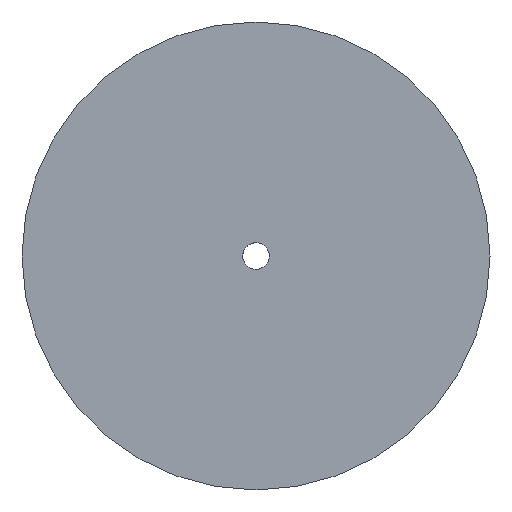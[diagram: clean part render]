
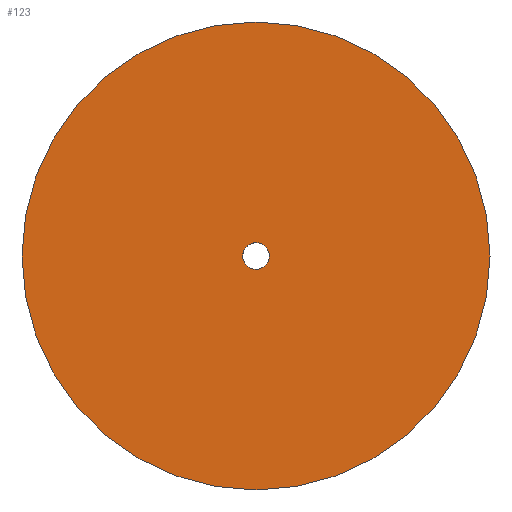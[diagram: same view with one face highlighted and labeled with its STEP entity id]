
A CAD part, top view. The second image highlights one B-rep face of the part: STEP entity #123.
In plain terms, the highlighted planar face has unit normal (0, 0, 1).
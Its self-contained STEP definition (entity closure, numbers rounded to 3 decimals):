
#62=CARTESIAN_POINT('Vertex',(-2.852,1.558,0.)) ;
#76=CARTESIAN_POINT('Vertex',(2.852,-1.558,0.)) ;
#79=CARTESIAN_POINT('Axis2P3D Location',(0.,0.,0.)) ;
#91=CARTESIAN_POINT('Axis2P3D Location',(0.,0.,0.)) ;
#96=CARTESIAN_POINT('Axis2P3D Location',(0.,0.,0.)) ;
#100=CARTESIAN_POINT('Vertex',(57.,0.,0.)) ;
#102=CARTESIAN_POINT('Vertex',(-57.,0.,0.)) ;
#105=CARTESIAN_POINT('Axis2P3D Location',(0.,0.,0.)) ;
#114=CARTESIAN_POINT('Axis2P3D Location',(0.,0.,0.)) ;
#80=DIRECTION('Axis2P3D Direction',(0.,-0.,-1.)) ;
#92=DIRECTION('Axis2P3D Direction',(0.,0.,1.)) ;
#93=DIRECTION('Axis2P3D XDirection',(1.,0.,0.)) ;
#97=DIRECTION('Axis2P3D Direction',(0.,0.,1.)) ;
#106=DIRECTION('Axis2P3D Direction',(0.,0.,1.)) ;
#115=DIRECTION('Axis2P3D Direction',(0.,0.,1.)) ;
#81=AXIS2_PLACEMENT_3D('Circle Axis2P3D',#79,#80,$) ;
#94=AXIS2_PLACEMENT_3D('Plane Axis2P3D',#91,#92,#93) ;
#98=AXIS2_PLACEMENT_3D('Circle Axis2P3D',#96,#97,$) ;
#107=AXIS2_PLACEMENT_3D('Circle Axis2P3D',#105,#106,$) ;
#116=AXIS2_PLACEMENT_3D('Circle Axis2P3D',#114,#115,$) ;
#111=ORIENTED_EDGE('',*,*,#104,.F.) ;
#112=ORIENTED_EDGE('',*,*,#109,.F.) ;
#120=ORIENTED_EDGE('',*,*,#118,.F.) ;
#121=ORIENTED_EDGE('',*,*,#83,.F.) ;
#122=FACE_BOUND('',#119,.T.) ;
#123=ADVANCED_FACE('PartBody',(#113,#122),#95,.T.) ;
#82=CIRCLE('generated circle',#81,3.25) ;
#99=CIRCLE('generated circle',#98,57.) ;
#108=CIRCLE('generated circle',#107,57.) ;
#117=CIRCLE('generated circle',#116,3.25) ;
#83=EDGE_CURVE('',#77,#63,#82,.F.) ;
#104=EDGE_CURVE('',#101,#103,#99,.F.) ;
#109=EDGE_CURVE('',#103,#101,#108,.F.) ;
#118=EDGE_CURVE('',#63,#77,#117,.T.) ;
#110=EDGE_LOOP('',(#111,#112)) ;
#119=EDGE_LOOP('',(#120,#121)) ;
#113=FACE_OUTER_BOUND('',#110,.T.) ;
#95=PLANE('',#94) ;
#63=VERTEX_POINT('',#62) ;
#77=VERTEX_POINT('',#76) ;
#101=VERTEX_POINT('',#100) ;
#103=VERTEX_POINT('',#102) ;
